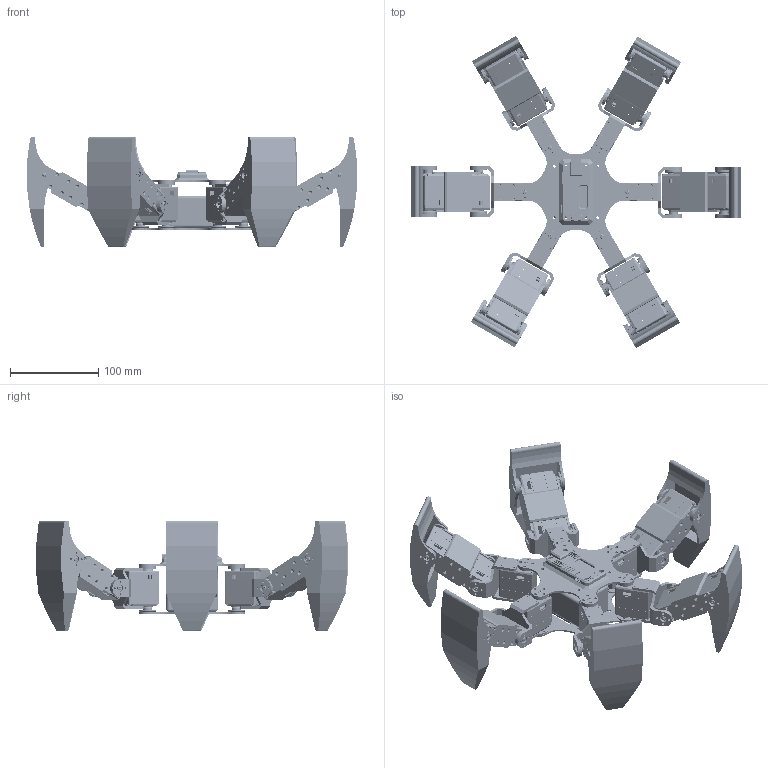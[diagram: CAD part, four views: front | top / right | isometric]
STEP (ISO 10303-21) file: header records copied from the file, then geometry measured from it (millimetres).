
FILE_DESCRIPTION(/* description */ (''),/* implementation_level */ '2;1');
FILE_NAME(/* name */ 'E:/云同步/我的坚果云/项目/SERVO DRIVER WITH ESP32/模型/SPIDER v7.step',/* time_stamp */ '2022-01-21T19:22:03+08:00',/* author */ (''),/* organization */ (''),/* preprocessor_version */ 'ST-DEVELOPER v18.1',/* originating_system */ 'Autodesk Translation Framework v10.10.0.1391',/* authorisation */ '');
FILE_SCHEMA (('AUTOMOTIVE_DESIGN { 1 0 10303 214 3 1 1 }'));
Length unit declared in the file: millimetre
Products named in the file (421): SPIDER; D1; Servo Driver with ESP32; Board; C23; 490328720; 490328720_1; 731907408; C22; 490325008; 490325008_1; 490325136; U5; 731907024; Extruded (4); 490332176; 490332176_1; 490332176_2; 490332176_3; 490332176_4; 490332176_5; Extruded (5); R25; 490324624; 490324624_1; 490324752; R24; 490324624_2; 490324624_3; 490324752_1; R23; 490324624_4; 490324624_5; 490324752_2; R22; 490324624_6; 490324624_7; 490324752_3; R20; 490325008_2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
Assembly tree (802 placements, depth 5):
  SPIDER
    D1
    Servo Driver with ESP32
      Board
      C23
        490328720
          Extruded
        490328720_1
          Extruded
        731907408
          Extruded (1)
      C22
        490325008
          Extruded (2)
        490325008_1
          Extruded (2)
        490325136
          Extruded (3)
      U5
        731907024
          Extruded (4)
        490332176
          Extruded (5)
        490332176_1
          Extruded (5)
        490332176_2
          Extruded (5)
        490332176_3
          Extruded (5)
        490332176_4
          Extruded (5)
        490332176_5
          Extruded (5)
      R25
        490324624
          Extruded (6)
        490324624_1
          Extruded (6)
        490324752
          Extruded (7)
      R24
        490324624_2
          Extruded (6)
        490324624_3
          Extruded (6)
        490324752_1
          Extruded (7)
      R23
        490324624_4
          Extruded (6)
        490324624_5
          Extruded (6)
        490324752_2
          Extruded (7)
      R22
        490324624_6
          Extruded (6)
        490324624_7
          Extruded (6)
        490324752_3
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Bounding box: 373.61 x 353.06 x 125.2 mm (x, y, z)
Volume: 1060620.7 mm3; surface area: 617549.7 mm2
Topology: 490 solids, 556 shells, 27916 faces, 75807 edges, 49457 vertices
Faces by surface type: plane 11922, cylinder 10006, bspline 3569, cone 1709, torus 398, sphere 312
Full cylindrical faces by diameter (mm): 0.5 x2, 0.6 x4, 0.762 x2, 1 x6, 1.58 x72, 1.6 x217, 1.7 x3, 1.87 x1, 1.98 x42, 2 x236, 2.5 x690, 2.75 x4, 3 x36, 3.2 x96, 3.7 x2, 4 x72, 4.1 x18, 5 x72, 5.8 x4, 6 x36, 6.05 x36, 6.2 x19, 6.5 x18, 7 x18, 7.5 x18, 8 x24, 8.5 x18, 9.1 x18, 9.5 x18, 10 x36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
Entity records: 198414 total; most frequent: CARTESIAN_POINT 46568, DIRECTION 30732, ORIENTED_EDGE 29796, EDGE_CURVE 14898, AXIS2_PLACEMENT_3D 10373, LINE 9986, VECTOR 9986, VERTEX_POINT 9733
